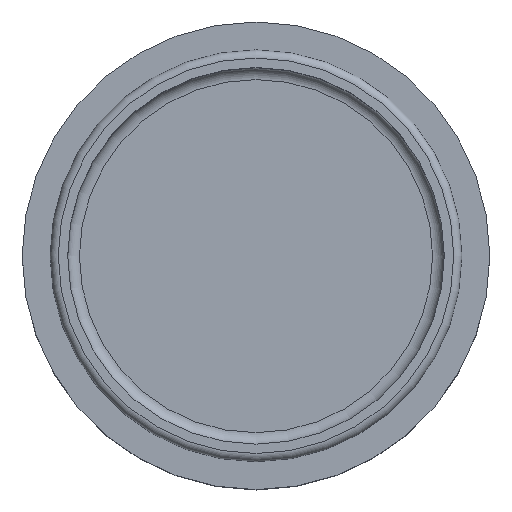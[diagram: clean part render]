
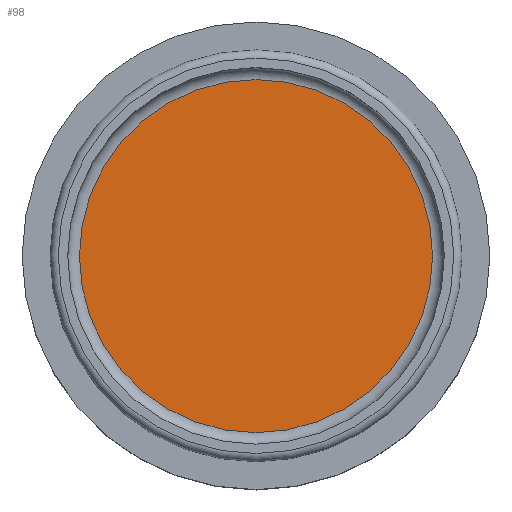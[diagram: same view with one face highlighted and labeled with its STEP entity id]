
A CAD part, top view. The second image highlights one B-rep face of the part: STEP entity #98.
In plain terms, the highlighted planar face has unit normal (0, 0, 1).
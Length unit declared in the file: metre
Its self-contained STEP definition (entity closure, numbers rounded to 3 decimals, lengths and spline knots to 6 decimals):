
#17=PLANE('',#126);
#27=ORIENTED_EDGE('',*,*,#40,.T.);
#40=EDGE_CURVE('',#48,#48,#56,.F.);
#48=VERTEX_POINT('',#188);
#56=CIRCLE('',#127,0.03005);
#67=EDGE_LOOP('',(#27));
#83=FACE_BOUND('',#67,.T.);
#98=ADVANCED_FACE('',(#83),#17,.F.);
#126=AXIS2_PLACEMENT_3D('',#186,#156,#157);
#127=AXIS2_PLACEMENT_3D('',#187,#158,#159);
#156=DIRECTION('',(0.,0.,-1.));
#157=DIRECTION('',(1.,0.,0.));
#158=DIRECTION('',(0.,0.,-1.));
#159=DIRECTION('',(-1.,0.,0.));
#186=CARTESIAN_POINT('',(0.,0.,-0.047));
#187=CARTESIAN_POINT('',(0.,0.,-0.047));
#188=CARTESIAN_POINT('',(-0.03005,0.,-0.047));
